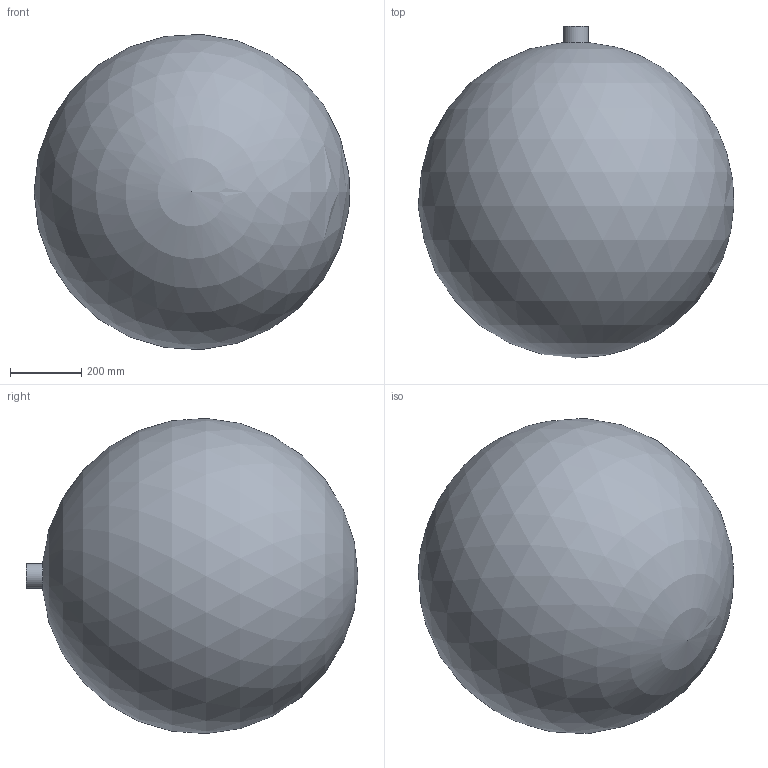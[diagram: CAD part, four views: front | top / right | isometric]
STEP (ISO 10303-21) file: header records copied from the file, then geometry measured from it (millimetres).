
FILE_DESCRIPTION(('Open CASCADE Model'),'2;1');
FILE_NAME('Open CASCADE Shape Model','2026-10-19T02:06:55',('Author'),( 'Open CASCADE'),'Open CASCADE STEP processor 7.9','Open CASCADE 7.9' ,'Unknown');
FILE_SCHEMA(('AUTOMOTIVE_DESIGN { 1 0 10303 214 1 1 1 1 }'));
Length unit declared in the file: millimetre
Products named in the file (4): 15b3cd6a-cb27-11f1-b6c1-02fc00000001; Liner_Al6061; Boss_Ti6Al4V; Overwrap_CFRP
Assembly tree (3 placements, depth 2):
  15b3cd6a-cb27-11f1-b6c1-02fc00000001
    Liner_Al6061
    Boss_Ti6Al4V
    Overwrap_CFRP
Bounding box: 887.31 x 933 x 885.81 mm (x, y, z)
Volume: 67448308.6 mm3; surface area: 9067218.3 mm2
Topology: 3 solids, 3 shells, 17 faces, 32 edges, 18 vertices
Faces by surface type: sphere 7, cylinder 4, cone 3, plane 3
Full cylindrical faces by diameter (mm): 24 x1, 70 x3
Entity records: 858 total; most frequent: DIRECTION 147, CARTESIAN_POINT 123, LINE 59, VECTOR 59, ORIENTED_EDGE 56, PCURVE 56, DEFINITIONAL_REPRESENTATION 56, AXIS2_PLACEMENT_3D 42
